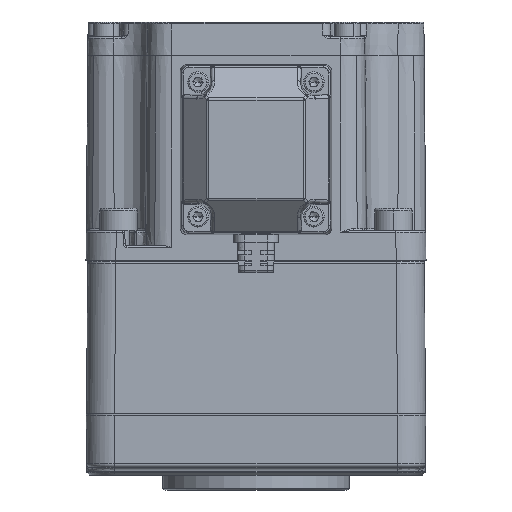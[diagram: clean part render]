
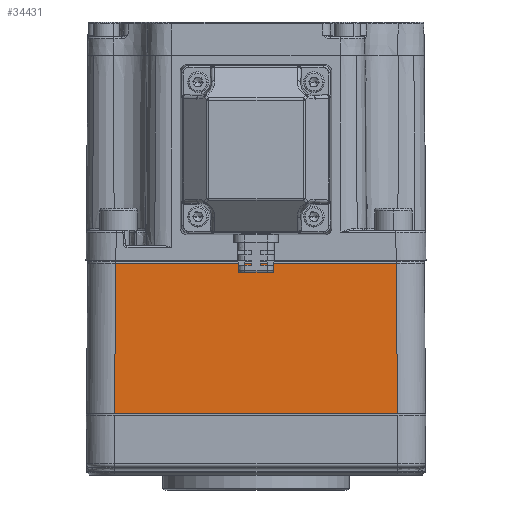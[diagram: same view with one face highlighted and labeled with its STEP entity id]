
A CAD part, front view. The second image highlights one B-rep face of the part: STEP entity #34431.
In plain terms, the highlighted planar face has unit normal (0, -1, 0.009).
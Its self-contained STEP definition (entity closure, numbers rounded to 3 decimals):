
#29784=CARTESIAN_POINT('',(-37.862,-135.364,
0.));
#29795=DIRECTION('',(-1.,0.,0.));
#29796=VECTOR('',#29795,75.725);
#29797=CARTESIAN_POINT('',(37.863,-135.364,
0.));
#29798=LINE('',#29797,#29796);
#30516=CARTESIAN_POINT('',(37.506,-135.013,
40.284));
#30518=DIRECTION('',(-0.009,-0.009,-1.));
#30519=VECTOR('',#30518,40.038);
#30520=CARTESIAN_POINT('',(-37.506,-135.013,
40.284));
#30521=LINE('',#30520,#30519);
#30522=DIRECTION('',(-0.009,0.009,1.));
#30523=VECTOR('',#30522,40.288);
#30524=CARTESIAN_POINT('',(37.863,-135.364,
0.));
#30525=LINE('',#30524,#30523);
#30542=CARTESIAN_POINT('',(-37.862,-135.364,
0.));
#30543=CARTESIAN_POINT('',(-37.861,-135.364,
0.083));
#30544=CARTESIAN_POINT('',(-37.861,-135.363,
0.167));
#30545=CARTESIAN_POINT('',(-37.86,-135.362,
0.25));
#30582=DIRECTION('',(1.,0.,0.));
#30583=VECTOR('',#30582,75.012);
#30584=CARTESIAN_POINT('',(-37.506,-135.013,
40.284));
#30585=LINE('',#30584,#30583);
#31874=VERTEX_POINT('',#29784);
#31887=VERTEX_POINT('',#30516);
#31902=CARTESIAN_POINT('',(37.863,-135.364,
0.));
#31903=VERTEX_POINT('',#31902);
#32005=CARTESIAN_POINT('',(-37.506,-135.013,
40.284));
#32006=CARTESIAN_POINT('',(-37.86,-135.362,
0.25));
#32007=VERTEX_POINT('',#32005);
#32008=VERTEX_POINT('',#32006);
#34416=CARTESIAN_POINT('',(-25.071,-135.,41.75));
#34417=DIRECTION('',(0.,-1.,0.009));
#34418=DIRECTION('',(-1.,0.,0.));
#34419=AXIS2_PLACEMENT_3D('',#34416,#34417,#34418);
#34420=PLANE('',#34419);
#34421=ORIENTED_EDGE('',*,*,#32912,.T.);
#34423=ORIENTED_EDGE('',*,*,#34422,.T.);
#34425=ORIENTED_EDGE('',*,*,#34424,.F.);
#34427=ORIENTED_EDGE('',*,*,#34426,.T.);
#34428=ORIENTED_EDGE('',*,*,#34408,.F.);
#34429=EDGE_LOOP('',(#34421,#34423,#34425,#34427,#34428));
#34430=FACE_OUTER_BOUND('',#34429,.F.);
#30546=B_SPLINE_CURVE_WITH_KNOTS('',3,(#30542,#30543,#30544,#30545),
.UNSPECIFIED.,.F.,.F.,(4,4),(0.,1.),.UNSPECIFIED.);
#32912=EDGE_CURVE('',#31903,#31874,#29798,.T.);
#34408=EDGE_CURVE('',#31903,#31887,#30525,.T.);
#34422=EDGE_CURVE('',#31874,#32008,#30546,.T.);
#34424=EDGE_CURVE('',#32007,#32008,#30521,.T.);
#34426=EDGE_CURVE('',#32007,#31887,#30585,.T.);
#34431=ADVANCED_FACE('',(#34430),#34420,.T.);
